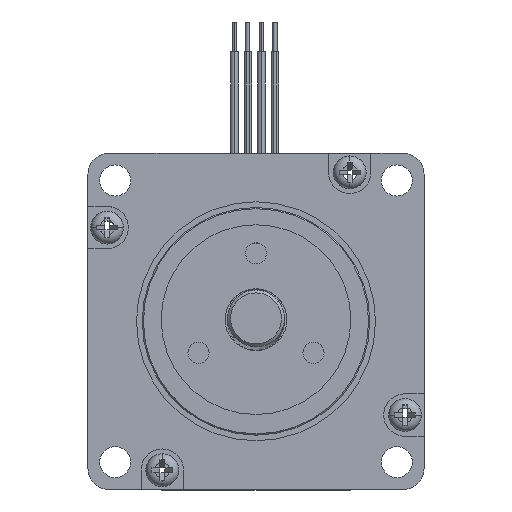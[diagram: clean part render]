
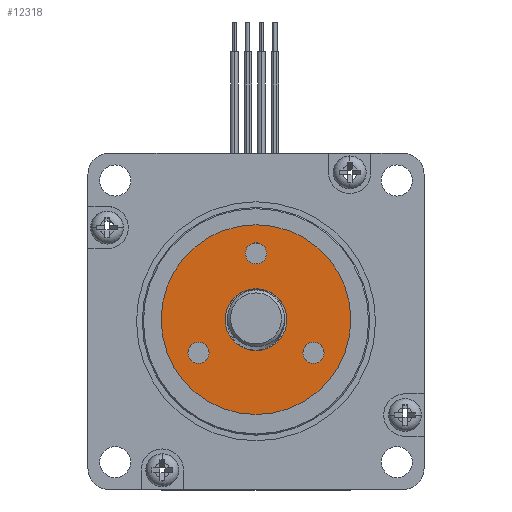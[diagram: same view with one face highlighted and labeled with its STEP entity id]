
A CAD part, top view. The second image highlights one B-rep face of the part: STEP entity #12318.
In plain terms, the highlighted planar face has unit normal (0, 0, 1).
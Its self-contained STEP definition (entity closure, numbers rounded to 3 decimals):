
#316 = EDGE_CURVE ( 'NONE', #2975, #2973, #12541, .T. ) ;
#317 = EDGE_CURVE ( 'NONE', #2579, #2214, #11991, .T. ) ;
#318 = EDGE_CURVE ( 'NONE', #3188, #3050, #11994, .T. ) ;
#581 = EDGE_CURVE ( 'NONE', #2214, #2579, #12450, .T. ) ;
#587 = EDGE_CURVE ( 'NONE', #2973, #2975, #12465, .T. ) ;
#646 = EDGE_CURVE ( 'NONE', #2522, #2112, #12435, .T. ) ;
#648 = EDGE_CURVE ( 'NONE', #3151, #3225, #12422, .T. ) ;
#662 = EDGE_CURVE ( 'NONE', #3225, #3151, #12116, .T. ) ;
#668 = EDGE_CURVE ( 'NONE', #3050, #3188, #12110, .T. ) ;
#672 = EDGE_CURVE ( 'NONE', #2112, #2522, #12040, .T. ) ;
#1345 = FACE_BOUND ( 'NONE', #8001, .T. ) ;
#1353 = FACE_BOUND ( 'NONE', #7990, .T. ) ;
#1360 = FACE_BOUND ( 'NONE', #8003, .T. ) ;
#1366 = FACE_BOUND ( 'NONE', #7991, .T. ) ;
#1382 = FACE_OUTER_BOUND ( 'NONE', #7994, .T. ) ;
#1401 = AXIS2_PLACEMENT_3D ( 'NONE', #13051, #13050, #13053 ) ;
#2082 = ORIENTED_EDGE ( 'NONE', *, *, #646, .F. ) ;
#2112 = VERTEX_POINT ( 'NONE', #10431 ) ;
#2214 = VERTEX_POINT ( 'NONE', #9982 ) ;
#2438 = ORIENTED_EDGE ( 'NONE', *, *, #318, .F. ) ;
#2522 = VERTEX_POINT ( 'NONE', #10591 ) ;
#2523 = ORIENTED_EDGE ( 'NONE', *, *, #587, .F. ) ;
#2579 = VERTEX_POINT ( 'NONE', #10446 ) ;
#2663 = ORIENTED_EDGE ( 'NONE', *, *, #316, .F. ) ;
#2747 = ORIENTED_EDGE ( 'NONE', *, *, #581, .F. ) ;
#2826 = ORIENTED_EDGE ( 'NONE', *, *, #668, .F. ) ;
#2894 = ORIENTED_EDGE ( 'NONE', *, *, #662, .T. ) ;
#2973 = VERTEX_POINT ( 'NONE', #10075 ) ;
#2975 = VERTEX_POINT ( 'NONE', #10669 ) ;
#3025 = ORIENTED_EDGE ( 'NONE', *, *, #317, .F. ) ;
#3050 = VERTEX_POINT ( 'NONE', #10798 ) ;
#3074 = ORIENTED_EDGE ( 'NONE', *, *, #672, .F. ) ;
#3151 = VERTEX_POINT ( 'NONE', #10445 ) ;
#3188 = VERTEX_POINT ( 'NONE', #10665 ) ;
#3220 = ORIENTED_EDGE ( 'NONE', *, *, #648, .T. ) ;
#3225 = VERTEX_POINT ( 'NONE', #10788 ) ;
#3361 = DIRECTION ( 'NONE',  ( 0., 0., 1. ) ) ;
#3407 = CARTESIAN_POINT ( 'NONE',  ( -39.453, -2.572, 180.834 ) ) ;
#3654 = DIRECTION ( 'NONE',  ( 1., 0., 0. ) ) ;
#3664 = DIRECTION ( 'NONE',  ( 0., 0., 1. ) ) ;
#3699 = CARTESIAN_POINT ( 'NONE',  ( -39.453, -2.572, 180.834 ) ) ;
#3726 = DIRECTION ( 'NONE',  ( 1., 0., 0. ) ) ;
#3727 = CARTESIAN_POINT ( 'NONE',  ( -49.075, -8.127, 180.834 ) ) ;
#3733 = DIRECTION ( 'NONE',  ( 0., 0., 1. ) ) ;
#3745 = CARTESIAN_POINT ( 'NONE',  ( -39.453, 8.538, 180.834 ) ) ;
#3851 = CARTESIAN_POINT ( 'NONE',  ( -39.453, 8.538, 180.834 ) ) ;
#3995 = DIRECTION ( 'NONE',  ( 0., 0., 1. ) ) ;
#4232 = DIRECTION ( 'NONE',  ( 0., 0., 1. ) ) ;
#4311 = DIRECTION ( 'NONE',  ( 1., 0., 0. ) ) ;
#4315 = DIRECTION ( 'NONE',  ( -0.5, 0.866, 0. ) ) ;
#4340 = DIRECTION ( 'NONE',  ( 1., 0., 0. ) ) ;
#4407 = AXIS2_PLACEMENT_3D ( 'NONE', #3699, #3664, #3654 ) ;
#4482 = AXIS2_PLACEMENT_3D ( 'NONE', #3407, #3995, #4340 ) ;
#4546 = AXIS2_PLACEMENT_3D ( 'NONE', #3727, #3361, #4315 ) ;
#4552 = AXIS2_PLACEMENT_3D ( 'NONE', #3745, #3733, #3726 ) ;
#4651 = AXIS2_PLACEMENT_3D ( 'NONE', #7002, #6566, #6969 ) ;
#4671 = AXIS2_PLACEMENT_3D ( 'NONE', #3851, #4232, #4311 ) ;
#6395 = DIRECTION ( 'NONE',  ( -0.5, 0.866, 0. ) ) ;
#6482 = DIRECTION ( 'NONE',  ( -0.5, -0.866, 0. ) ) ;
#6484 = DIRECTION ( 'NONE',  ( 0., 0., 1. ) ) ;
#6498 = DIRECTION ( 'NONE',  ( 1., 0., 0. ) ) ;
#6515 = CARTESIAN_POINT ( 'NONE',  ( -29.832, -8.127, 180.834 ) ) ;
#6566 = DIRECTION ( 'NONE',  ( 0., 0., 1. ) ) ;
#6625 = DIRECTION ( 'NONE',  ( 0., 0., 1. ) ) ;
#6630 = CARTESIAN_POINT ( 'NONE',  ( -39.453, -2.572, 180.834 ) ) ;
#6969 = DIRECTION ( 'NONE',  ( 1., 0., 0. ) ) ;
#7002 = CARTESIAN_POINT ( 'NONE',  ( -39.453, -2.572, 180.834 ) ) ;
#7011 = DIRECTION ( 'NONE',  ( -0.5, -0.866, 0. ) ) ;
#7013 = DIRECTION ( 'NONE',  ( 0., 0., 1. ) ) ;
#7014 = CARTESIAN_POINT ( 'NONE',  ( -29.832, -8.127, 180.834 ) ) ;
#7050 = DIRECTION ( 'NONE',  ( 0., 0., 1. ) ) ;
#7162 = CARTESIAN_POINT ( 'NONE',  ( -49.075, -8.127, 180.834 ) ) ;
#7990 = EDGE_LOOP ( 'NONE', ( #2663, #2523 ) ) ;
#7991 = EDGE_LOOP ( 'NONE', ( #2082, #3074 ) ) ;
#7994 = EDGE_LOOP ( 'NONE', ( #2894, #3220 ) ) ;
#8001 = EDGE_LOOP ( 'NONE', ( #3025, #2747 ) ) ;
#8003 = EDGE_LOOP ( 'NONE', ( #2438, #2826 ) ) ;
#9982 = CARTESIAN_POINT ( 'NONE',  ( -31.612, -8.127, 180.834 ) ) ;
#10075 = CARTESIAN_POINT ( 'NONE',  ( -44.623, -2.572, 180.834 ) ) ;
#10431 = CARTESIAN_POINT ( 'NONE',  ( -41.233, 8.538, 180.834 ) ) ;
#10445 = CARTESIAN_POINT ( 'NONE',  ( -55.328, -2.572, 180.834 ) ) ;
#10446 = CARTESIAN_POINT ( 'NONE',  ( -28.052, -8.127, 180.834 ) ) ;
#10591 = CARTESIAN_POINT ( 'NONE',  ( -37.673, 8.538, 180.834 ) ) ;
#10665 = CARTESIAN_POINT ( 'NONE',  ( -47.295, -8.127, 180.834 ) ) ;
#10669 = CARTESIAN_POINT ( 'NONE',  ( -34.283, -2.572, 180.834 ) ) ;
#10788 = CARTESIAN_POINT ( 'NONE',  ( -23.578, -2.572, 180.834 ) ) ;
#10798 = CARTESIAN_POINT ( 'NONE',  ( -50.855, -8.127, 180.834 ) ) ;
#11991 = CIRCLE ( 'NONE', #13270, 1.78 ) ;
#11994 = CIRCLE ( 'NONE', #13265, 1.78 ) ;
#12040 = CIRCLE ( 'NONE', #4671, 1.78 ) ;
#12110 = CIRCLE ( 'NONE', #4546, 1.78 ) ;
#12116 = CIRCLE ( 'NONE', #4482, 15.875 ) ;
#12318 = ADVANCED_FACE ( 'NONE', ( #1345, #1360, #1366, #1353, #1382 ), #13047, .F. ) ;
#12422 = CIRCLE ( 'NONE', #4407, 15.875 ) ;
#12435 = CIRCLE ( 'NONE', #4552, 1.78 ) ;
#12450 = CIRCLE ( 'NONE', #13336, 1.78 ) ;
#12465 = CIRCLE ( 'NONE', #4651, 5.17 ) ;
#12541 = CIRCLE ( 'NONE', #13269, 5.17 ) ;
#13047 = PLANE ( 'NONE',  #1401 ) ;
#13050 = DIRECTION ( 'NONE',  ( 0., 0., -1. ) ) ;
#13051 = CARTESIAN_POINT ( 'NONE',  ( -39.453, 2.598, 180.834 ) ) ;
#13053 = DIRECTION ( 'NONE',  ( -1., 0., 0. ) ) ;
#13265 = AXIS2_PLACEMENT_3D ( 'NONE', #7162, #7050, #6395 ) ;
#13269 = AXIS2_PLACEMENT_3D ( 'NONE', #6630, #6625, #6498 ) ;
#13270 = AXIS2_PLACEMENT_3D ( 'NONE', #6515, #6484, #6482 ) ;
#13336 = AXIS2_PLACEMENT_3D ( 'NONE', #7014, #7013, #7011 ) ;
